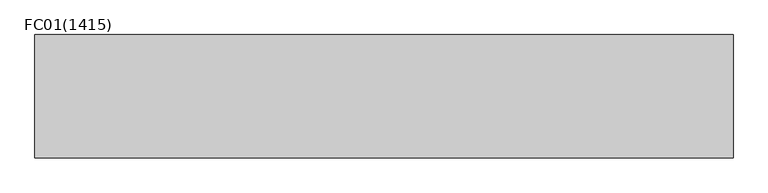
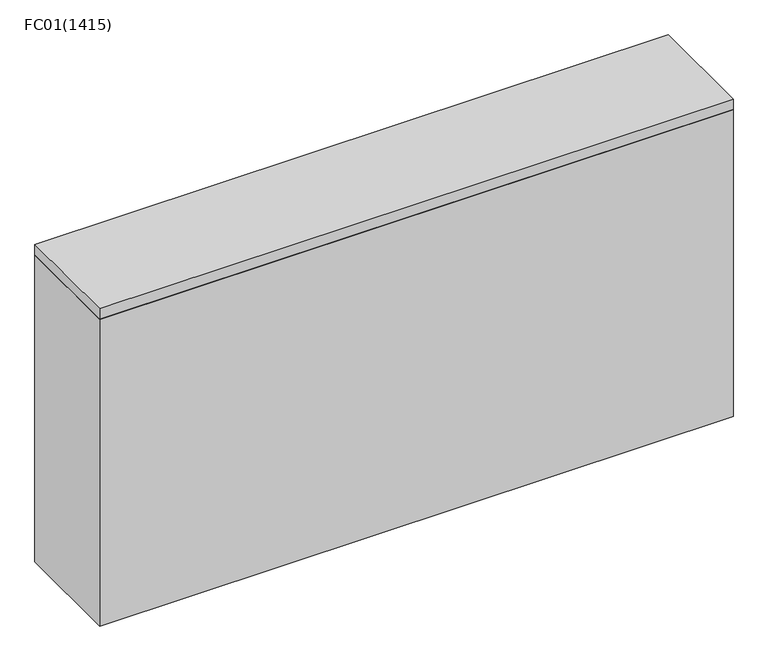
"""IFC4 building model written with IfcOpenShell, lengths in millimetres: proxy geometry, ZYR_03.04.03 Fancoil terra : FC01(1415)."""

from ifc_helpers import new_model, si_unit, frame, origin, origin_with_axes, place, context, project, spatial, polyline, outline, extrude, source, transform, mapped, element, save


def fc01_1415_f305ff5e(model_context):
    return source(origin(), model_context, "Body", "SweptSolid", [
        extrude(outline(polyline([(707.5, 125.0), (707.5, -125.0), (-707.5, -125.0), (-707.5, 125.0), (707.5, 125.0)])), origin_with_axes(), (0.0, 0.0, 1.0), 725.0),
        extrude(outline(polyline([(707.5, 125.0), (707.5, -125.0), (-707.5, -125.0), (-707.5, 125.0), (707.5, 125.0)])), frame((0.0, 0.0, 725.0), z_axis=(0.0, 0.0, 1.0), x_axis=(1.0, 0.0, 0.0)), (0.0, 0.0, 1.0), 25.0),
    ])


if __name__ == "__main__":
    model = new_model("IFC4")
    model_context = context("Model", 3, world=origin())
    ifc_project = project(units=[si_unit("LENGTHUNIT", "METRE", prefix="MILLI")], contexts=[model_context])
    site = spatial("IfcSite", under=ifc_project)
    building = spatial("IfcBuilding", under=site)
    placement = place(None, origin())
    fc01_1415_shape = fc01_1415_f305ff5e(model_context)
    element("IfcBuildingElementProxy", 1, Name="ZYR_03.04.03 Fancoil terra : FC01(1415)", ObjectType="ZYR_03.04.03 Fancoil terra : FC01(1415)", at=placement, inside=building, context=model_context, shape_type="MappedRepresentation", body=[
        mapped(fc01_1415_shape, transform((0.0, 0.0, 0.0), x_axis=(1.0, 0.0, 0.0), y_axis=(0.0, 1.0, 0.0), z_axis=(0.0, 0.0, 1.0))),
    ])
    save(model, "model.ifc")
